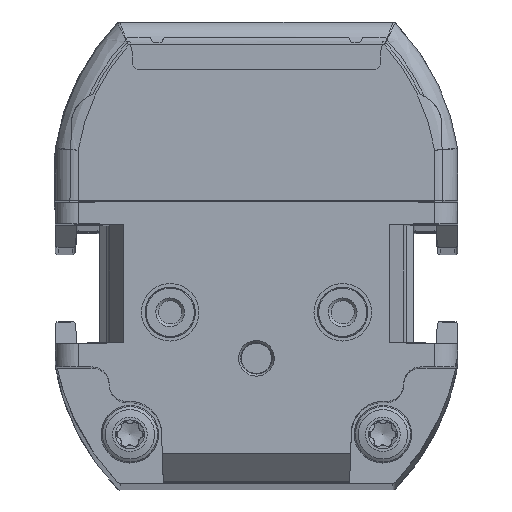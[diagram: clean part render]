
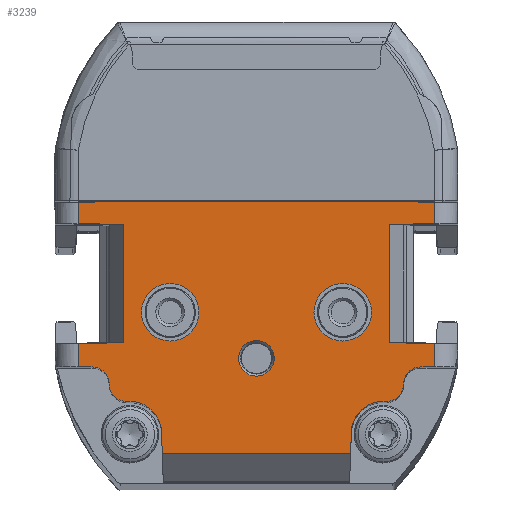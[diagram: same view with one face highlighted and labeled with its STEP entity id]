
A CAD part, top view. The second image highlights one B-rep face of the part: STEP entity #3239.
In plain terms, the highlighted planar face has unit normal (0, 0, 1).
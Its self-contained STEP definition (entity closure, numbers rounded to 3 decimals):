
#1178=FACE_BOUND('',#5343,.T.);
#1179=FACE_BOUND('',#5344,.T.);
#1180=FACE_BOUND('',#5345,.T.);
#1181=FACE_BOUND('',#5346,.T.);
#1900=CIRCLE('',#17502,2.5);
#1901=CIRCLE('',#17504,2.5);
#1902=CIRCLE('',#17506,1.55);
#1905=CIRCLE('',#17576,1.5);
#1906=CIRCLE('',#17577,1.5);
#1907=CIRCLE('',#17578,1.5);
#1908=CIRCLE('',#17579,1.5);
#1909=CIRCLE('',#17580,2.75);
#1910=CIRCLE('',#17581,2.75);
#3239=ADVANCED_FACE('',(#1178,#1179,#1180,#1181),#3754,.T.);
#3754=PLANE('',#17582);
#5343=EDGE_LOOP('',(#9281));
#5344=EDGE_LOOP('',(#9282));
#5345=EDGE_LOOP('',(#9283));
#5346=EDGE_LOOP('',(#9284,#9285,#9286,#9287,#9288,#9289,#9290,#9291,#9292,
#9293,#9294,#9295,#9296,#9297,#9298,#9299,#9300,#9301,#9302,#9303,#9304,
#9305,#9306,#9307,#9308,#9309));
#9281=ORIENTED_EDGE('',*,*,#13579,.T.);
#9282=ORIENTED_EDGE('',*,*,#13578,.F.);
#9283=ORIENTED_EDGE('',*,*,#13577,.F.);
#9284=ORIENTED_EDGE('',*,*,#13699,.F.);
#9285=ORIENTED_EDGE('',*,*,#13700,.T.);
#9286=ORIENTED_EDGE('',*,*,#13701,.T.);
#9287=ORIENTED_EDGE('',*,*,#13702,.T.);
#9288=ORIENTED_EDGE('',*,*,#13630,.T.);
#9289=ORIENTED_EDGE('',*,*,#13576,.T.);
#9290=ORIENTED_EDGE('',*,*,#13573,.T.);
#9291=ORIENTED_EDGE('',*,*,#13572,.T.);
#9292=ORIENTED_EDGE('',*,*,#13698,.T.);
#9293=ORIENTED_EDGE('',*,*,#13703,.F.);
#9294=ORIENTED_EDGE('',*,*,#13704,.F.);
#9295=ORIENTED_EDGE('',*,*,#13705,.F.);
#9296=ORIENTED_EDGE('',*,*,#13692,.T.);
#9297=ORIENTED_EDGE('',*,*,#13568,.F.);
#9298=ORIENTED_EDGE('',*,*,#13564,.T.);
#9299=ORIENTED_EDGE('',*,*,#13563,.F.);
#9300=ORIENTED_EDGE('',*,*,#13603,.T.);
#9301=ORIENTED_EDGE('',*,*,#13706,.F.);
#9302=ORIENTED_EDGE('',*,*,#13707,.T.);
#9303=ORIENTED_EDGE('',*,*,#13708,.T.);
#9304=ORIENTED_EDGE('',*,*,#13709,.F.);
#9305=ORIENTED_EDGE('',*,*,#13710,.F.);
#9306=ORIENTED_EDGE('',*,*,#13711,.F.);
#9307=ORIENTED_EDGE('',*,*,#13611,.T.);
#9308=ORIENTED_EDGE('',*,*,#13712,.F.);
#9309=ORIENTED_EDGE('',*,*,#13713,.F.);
#11499=VERTEX_POINT('',#29891);
#11500=VERTEX_POINT('',#29893);
#11501=VERTEX_POINT('',#29897);
#11502=VERTEX_POINT('',#29901);
#11504=VERTEX_POINT('',#29907);
#11506=VERTEX_POINT('',#29911);
#11507=VERTEX_POINT('',#29915);
#11508=VERTEX_POINT('',#29919);
#11509=VERTEX_POINT('',#29923);
#11510=VERTEX_POINT('',#29926);
#11511=VERTEX_POINT('',#29929);
#11528=VERTEX_POINT('',#30023);
#11533=VERTEX_POINT('',#30037);
#11534=VERTEX_POINT('',#30039);
#11547=VERTEX_POINT('',#30079);
#11581=VERTEX_POINT('',#30332);
#11585=VERTEX_POINT('',#30342);
#11586=VERTEX_POINT('',#30346);
#11587=VERTEX_POINT('',#30347);
#11588=VERTEX_POINT('',#30349);
#11589=VERTEX_POINT('',#30351);
#11590=VERTEX_POINT('',#30354);
#11591=VERTEX_POINT('',#30356);
#11592=VERTEX_POINT('',#30359);
#11593=VERTEX_POINT('',#30361);
#11594=VERTEX_POINT('',#30363);
#11595=VERTEX_POINT('',#30365);
#11596=VERTEX_POINT('',#30367);
#11597=VERTEX_POINT('',#30370);
#13563=EDGE_CURVE('',#11500,#11499,#15088,.T.);
#13564=EDGE_CURVE('',#11501,#11499,#15089,.T.);
#13568=EDGE_CURVE('',#11501,#11502,#15092,.T.);
#13572=EDGE_CURVE('',#11504,#11506,#15095,.T.);
#13573=EDGE_CURVE('',#11507,#11504,#15096,.T.);
#13576=EDGE_CURVE('',#11508,#11507,#15098,.T.);
#13577=EDGE_CURVE('',#11509,#11509,#1900,.T.);
#13578=EDGE_CURVE('',#11510,#11510,#1901,.T.);
#13579=EDGE_CURVE('',#11511,#11511,#1902,.T.);
#13603=EDGE_CURVE('',#11500,#11528,#15113,.T.);
#13611=EDGE_CURVE('',#11533,#11534,#15119,.T.);
#13630=EDGE_CURVE('',#11547,#11508,#15132,.T.);
#13692=EDGE_CURVE('',#11581,#11502,#15175,.T.);
#13698=EDGE_CURVE('',#11506,#11585,#15177,.T.);
#13699=EDGE_CURVE('',#11586,#11587,#15178,.T.);
#13700=EDGE_CURVE('',#11586,#11588,#1905,.T.);
#13701=EDGE_CURVE('',#11588,#11589,#1906,.T.);
#13702=EDGE_CURVE('',#11589,#11547,#15179,.T.);
#13703=EDGE_CURVE('',#11590,#11585,#15180,.T.);
#13704=EDGE_CURVE('',#11591,#11590,#15181,.T.);
#13705=EDGE_CURVE('',#11581,#11591,#15182,.T.);
#13706=EDGE_CURVE('',#11592,#11528,#15183,.T.);
#13707=EDGE_CURVE('',#11592,#11593,#1907,.T.);
#13708=EDGE_CURVE('',#11593,#11594,#1908,.T.);
#13709=EDGE_CURVE('',#11595,#11594,#15184,.T.);
#13710=EDGE_CURVE('',#11596,#11595,#1909,.T.);
#13711=EDGE_CURVE('',#11533,#11596,#15185,.T.);
#13712=EDGE_CURVE('',#11597,#11534,#15186,.T.);
#13713=EDGE_CURVE('',#11587,#11597,#1910,.T.);
#15088=LINE('',#29894,#16251);
#15089=LINE('',#29896,#16252);
#15092=LINE('',#29904,#16255);
#15095=LINE('',#29912,#16258);
#15096=LINE('',#29914,#16259);
#15098=LINE('',#29920,#16261);
#15113=LINE('',#30024,#16276);
#15119=LINE('',#30040,#16282);
#15132=LINE('',#30078,#16295);
#15175=LINE('',#30331,#16338);
#15177=LINE('',#30343,#16340);
#15178=LINE('',#30345,#16341);
#15179=LINE('',#30352,#16342);
#15180=LINE('',#30353,#16343);
#15181=LINE('',#30355,#16344);
#15182=LINE('',#30357,#16345);
#15183=LINE('',#30358,#16346);
#15184=LINE('',#30364,#16347);
#15185=LINE('',#30368,#16348);
#15186=LINE('',#30369,#16349);
#16251=VECTOR('',#20699,1.);
#16252=VECTOR('',#20702,1.);
#16255=VECTOR('',#20709,1.);
#16258=VECTOR('',#20716,1.);
#16259=VECTOR('',#20719,1.);
#16261=VECTOR('',#20725,1.);
#16276=VECTOR('',#20776,1.);
#16282=VECTOR('',#20790,1.);
#16295=VECTOR('',#20829,1.);
#16338=VECTOR('',#20940,1.);
#16340=VECTOR('',#20952,1.);
#16341=VECTOR('',#20955,1.);
#16342=VECTOR('',#20960,1.);
#16343=VECTOR('',#20961,1.);
#16344=VECTOR('',#20962,1.);
#16345=VECTOR('',#20963,1.);
#16346=VECTOR('',#20964,1.);
#16347=VECTOR('',#20969,1.);
#16348=VECTOR('',#20972,1.);
#16349=VECTOR('',#20973,1.);
#17502=AXIS2_PLACEMENT_3D('',#29922,#20728,#20729);
#17504=AXIS2_PLACEMENT_3D('',#29925,#20732,#20733);
#17506=AXIS2_PLACEMENT_3D('',#29928,#20736,#20737);
#17576=AXIS2_PLACEMENT_3D('',#30348,#20956,#20957);
#17577=AXIS2_PLACEMENT_3D('',#30350,#20958,#20959);
#17578=AXIS2_PLACEMENT_3D('',#30360,#20965,#20966);
#17579=AXIS2_PLACEMENT_3D('',#30362,#20967,#20968);
#17580=AXIS2_PLACEMENT_3D('',#30366,#20970,#20971);
#17581=AXIS2_PLACEMENT_3D('',#30371,#20974,#20975);
#17582=AXIS2_PLACEMENT_3D('',#30372,#20976,#20977);
#20699=DIRECTION('',(1.,0.017,0.));
#20702=DIRECTION('',(0.,-1.,0.));
#20709=DIRECTION('',(-1.,0.017,0.));
#20716=DIRECTION('',(1.,0.017,0.));
#20719=DIRECTION('',(0.,1.,0.));
#20725=DIRECTION('',(-1.,0.017,0.));
#20728=DIRECTION('',(0.,0.,1.));
#20729=DIRECTION('',(1.,0.,0.));
#20732=DIRECTION('',(0.,0.,1.));
#20733=DIRECTION('',(1.,0.,0.));
#20736=DIRECTION('',(0.,0.,-1.));
#20737=DIRECTION('',(1.,0.,0.));
#20776=DIRECTION('',(0.,-1.,0.));
#20790=DIRECTION('',(1.,0.,0.));
#20829=DIRECTION('',(0.,1.,0.));
#20940=DIRECTION('',(0.,-1.,0.));
#20952=DIRECTION('',(0.,1.,0.));
#20955=DIRECTION('',(-1.,0.,0.));
#20956=DIRECTION('',(0.,0.,1.));
#20957=DIRECTION('',(1.,0.,0.));
#20958=DIRECTION('',(0.,0.,-1.));
#20959=DIRECTION('',(1.,0.,0.));
#20960=DIRECTION('',(1.,0.,0.));
#20961=DIRECTION('',(1.,-0.017,0.));
#20962=DIRECTION('',(1.,0.,0.));
#20963=DIRECTION('',(1.,0.017,0.));
#20964=DIRECTION('',(-1.,0.,0.));
#20965=DIRECTION('',(0.,0.,-1.));
#20966=DIRECTION('',(1.,0.,0.));
#20967=DIRECTION('',(0.,0.,1.));
#20968=DIRECTION('',(1.,0.,0.));
#20969=DIRECTION('',(-1.,0.,0.));
#20970=DIRECTION('',(0.,0.,1.));
#20971=DIRECTION('',(1.,0.,0.));
#20972=DIRECTION('',(-0.035,0.999,0.));
#20973=DIRECTION('',(-0.035,-0.999,0.));
#20974=DIRECTION('',(0.,0.,1.));
#20975=DIRECTION('',(1.,0.,0.));
#20976=DIRECTION('',(0.,0.,1.));
#20977=DIRECTION('',(1.,0.,0.));
#29891=CARTESIAN_POINT('',(-11.55,12.107,399.));
#29893=CARTESIAN_POINT('',(-15.5,12.038,399.));
#29894=CARTESIAN_POINT('',(-17.709,11.999,399.));
#29896=CARTESIAN_POINT('',(-11.55,0.,399.));
#29897=CARTESIAN_POINT('',(-11.55,22.393,399.));
#29901=CARTESIAN_POINT('',(-15.5,22.462,399.));
#29904=CARTESIAN_POINT('',(-17.107,22.49,399.));
#29907=CARTESIAN_POINT('',(11.55,22.393,399.));
#29911=CARTESIAN_POINT('',(15.5,22.462,399.));
#29912=CARTESIAN_POINT('',(-17.882,21.88,399.));
#29914=CARTESIAN_POINT('',(11.55,0.,399.));
#29915=CARTESIAN_POINT('',(11.55,12.107,399.));
#29919=CARTESIAN_POINT('',(15.5,12.038,399.));
#29920=CARTESIAN_POINT('',(-17.28,12.61,399.));
#29922=CARTESIAN_POINT('',(-7.5,14.75,399.));
#29923=CARTESIAN_POINT('',(-5.,14.75,399.));
#29925=CARTESIAN_POINT('',(7.5,14.75,399.));
#29926=CARTESIAN_POINT('',(10.,14.75,399.));
#29928=CARTESIAN_POINT('',(0.,10.75,399.));
#29929=CARTESIAN_POINT('',(1.55,10.75,399.));
#30023=CARTESIAN_POINT('',(-15.5,10.,399.));
#30024=CARTESIAN_POINT('',(-15.5,0.,399.));
#30037=CARTESIAN_POINT('',(-8.189,2.5,399.));
#30039=CARTESIAN_POINT('',(8.189,2.5,399.));
#30040=CARTESIAN_POINT('',(-17.5,2.5,399.));
#30078=CARTESIAN_POINT('',(15.5,0.,399.));
#30079=CARTESIAN_POINT('',(15.5,10.,399.));
#30331=CARTESIAN_POINT('',(-15.5,0.,399.));
#30332=CARTESIAN_POINT('',(-15.5,24.317,399.));
#30342=CARTESIAN_POINT('',(15.5,24.317,399.));
#30343=CARTESIAN_POINT('',(15.5,0.,399.));
#30345=CARTESIAN_POINT('',(23.25,7.,399.));
#30346=CARTESIAN_POINT('',(11.3,7.,399.));
#30347=CARTESIAN_POINT('',(11.002,7.,399.));
#30348=CARTESIAN_POINT('',(11.3,8.5,399.));
#30349=CARTESIAN_POINT('',(12.8,8.5,399.));
#30350=CARTESIAN_POINT('',(14.3,8.5,399.));
#30351=CARTESIAN_POINT('',(14.3,10.,399.));
#30352=CARTESIAN_POINT('',(-17.5,10.,399.));
#30353=CARTESIAN_POINT('',(-17.066,24.886,399.));
#30354=CARTESIAN_POINT('',(13.025,24.36,399.));
#30355=CARTESIAN_POINT('',(-17.5,24.36,399.));
#30356=CARTESIAN_POINT('',(-13.025,24.36,399.));
#30357=CARTESIAN_POINT('',(-17.924,24.275,399.));
#30358=CARTESIAN_POINT('',(-17.5,10.,399.));
#30359=CARTESIAN_POINT('',(-14.3,10.,399.));
#30360=CARTESIAN_POINT('',(-14.3,8.5,399.));
#30361=CARTESIAN_POINT('',(-12.8,8.5,399.));
#30362=CARTESIAN_POINT('',(-11.3,8.5,399.));
#30363=CARTESIAN_POINT('',(-11.3,7.,399.));
#30364=CARTESIAN_POINT('',(-11.,7.,399.));
#30365=CARTESIAN_POINT('',(-11.002,7.,399.));
#30366=CARTESIAN_POINT('',(-11.002,4.25,399.));
#30367=CARTESIAN_POINT('',(-8.253,4.346,399.));
#30368=CARTESIAN_POINT('',(-8.25,4.25,399.));
#30369=CARTESIAN_POINT('',(8.25,4.25,399.));
#30370=CARTESIAN_POINT('',(8.253,4.346,399.));
#30371=CARTESIAN_POINT('',(11.002,4.25,399.));
#30372=CARTESIAN_POINT('',(-17.5,0.,399.));
